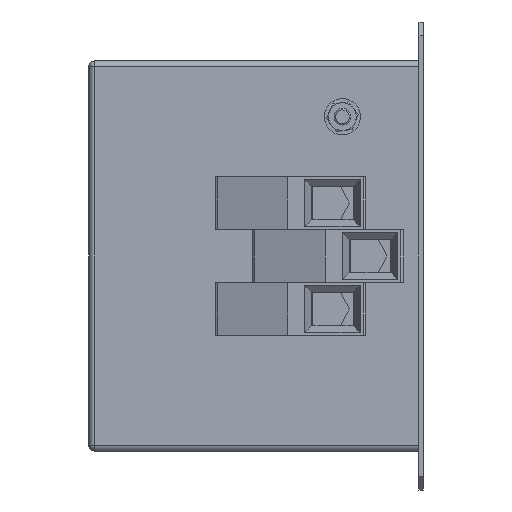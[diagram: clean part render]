
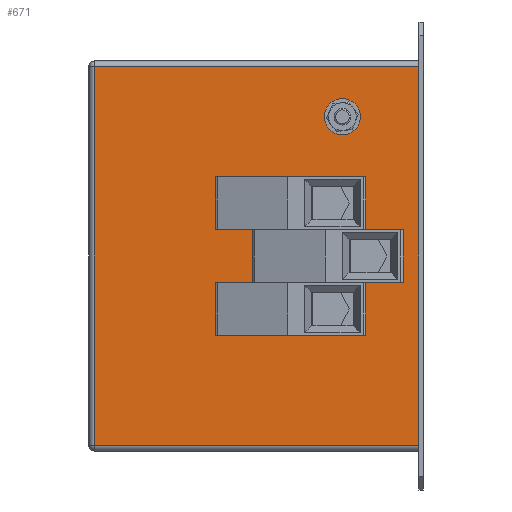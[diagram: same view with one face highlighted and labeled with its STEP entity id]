
A CAD part, left-side view. The second image highlights one B-rep face of the part: STEP entity #671.
In plain terms, the highlighted planar face has unit normal (-1, 0, 0).
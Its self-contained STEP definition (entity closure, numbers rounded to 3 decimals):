
#4 = ORIENTED_EDGE ( 'NONE', *, *, #3116, .T. ) ;
#15 = DIRECTION ( 'NONE',  ( 0., -1., 0. ) ) ;
#260 = VERTEX_POINT ( 'NONE', #532 ) ;
#272 = VECTOR ( 'NONE', #1991, 1000. ) ;
#299 = CARTESIAN_POINT ( 'NONE',  ( 0., 1.5, -154. ) ) ;
#313 = ORIENTED_EDGE ( 'NONE', *, *, #4718, .T. ) ;
#532 = CARTESIAN_POINT ( 'NONE',  ( 0., 56.08, -67.5 ) ) ;
#583 = FACE_BOUND ( 'NONE', #6140, .T. ) ;
#631 = DIRECTION ( 'NONE',  ( 1., 0., 0. ) ) ;
#671 = ADVANCED_FACE ( 'NONE', ( #2915, #5885, #1749, #583, #3985 ), #1655, .F. ) ;
#674 = CIRCLE ( 'NONE', #6333, 2.5 ) ;
#726 = DIRECTION ( 'NONE',  ( 0., 0., -1. ) ) ;
#811 = ORIENTED_EDGE ( 'NONE', *, *, #5842, .T. ) ;
#930 = ORIENTED_EDGE ( 'NONE', *, *, #4413, .T. ) ;
#1086 = DIRECTION ( 'NONE',  ( 0., 0., -1. ) ) ;
#1125 = AXIS2_PLACEMENT_3D ( 'NONE', #4385, #5725, #1086 ) ;
#1170 = DIRECTION ( 'NONE',  ( 1., 0., 0. ) ) ;
#1234 = CARTESIAN_POINT ( 'NONE',  ( 0., 29., -37. ) ) ;
#1264 = ORIENTED_EDGE ( 'NONE', *, *, #7670, .T. ) ;
#1356 = CARTESIAN_POINT ( 'NONE',  ( 0., 56.08, -103. ) ) ;
#1376 = AXIS2_PLACEMENT_3D ( 'NONE', #1640, #5821, #6509 ) ;
#1378 = DIRECTION ( 'NONE',  ( 0., 0., -1. ) ) ;
#1381 = EDGE_CURVE ( 'NONE', #260, #7115, #2383, .T. ) ;
#1398 = LINE ( 'NONE', #299, #8426 ) ;
#1640 = CARTESIAN_POINT ( 'NONE',  ( 0., 29., -34. ) ) ;
#1655 = PLANE ( 'NONE',  #6252 ) ;
#1668 = CARTESIAN_POINT ( 'NONE',  ( 0., 42.58, -81.5 ) ) ;
#1678 = EDGE_LOOP ( 'NONE', ( #5916, #7522, #4, #2868 ) ) ;
#1749 = FACE_BOUND ( 'NONE', #6672, .T. ) ;
#1963 = CARTESIAN_POINT ( 'NONE',  ( 0., 56.08, -105.5 ) ) ;
#1991 = DIRECTION ( 'NONE',  ( 0., 0., -1. ) ) ;
#2001 = CARTESIAN_POINT ( 'NONE',  ( 0., 118., -16. ) ) ;
#2248 = AXIS2_PLACEMENT_3D ( 'NONE', #3881, #1170, #7974 ) ;
#2300 = VERTEX_POINT ( 'NONE', #2001 ) ;
#2341 = DIRECTION ( 'NONE',  ( 0., 0., -1. ) ) ;
#2355 = CIRCLE ( 'NONE', #7562, 2.5 ) ;
#2383 = CIRCLE ( 'NONE', #1125, 2.5 ) ;
#2572 = EDGE_CURVE ( 'NONE', #8274, #2300, #4382, .T. ) ;
#2745 = VERTEX_POINT ( 'NONE', #3282 ) ;
#2819 = VERTEX_POINT ( 'NONE', #8782 ) ;
#2828 = EDGE_CURVE ( 'NONE', #7115, #260, #2355, .T. ) ;
#2868 = ORIENTED_EDGE ( 'NONE', *, *, #2572, .T. ) ;
#2915 = FACE_BOUND ( 'NONE', #7655, .T. ) ;
#2954 = ORIENTED_EDGE ( 'NONE', *, *, #7014, .T. ) ;
#2971 = DIRECTION ( 'NONE',  ( 0., 0., 1. ) ) ;
#3025 = LINE ( 'NONE', #6593, #272 ) ;
#3116 = EDGE_CURVE ( 'NONE', #2745, #8274, #1398, .T. ) ;
#3259 = ORIENTED_EDGE ( 'NONE', *, *, #1381, .T. ) ;
#3282 = CARTESIAN_POINT ( 'NONE',  ( 0., 1.5, -152. ) ) ;
#3484 = EDGE_LOOP ( 'NONE', ( #3259, #5844 ) ) ;
#3624 = DIRECTION ( 'NONE',  ( 1., 0., 0. ) ) ;
#3672 = CARTESIAN_POINT ( 'NONE',  ( 0., 56.08, -103. ) ) ;
#3881 = CARTESIAN_POINT ( 'NONE',  ( 0., 29., -34. ) ) ;
#3985 = FACE_OUTER_BOUND ( 'NONE', #1678, .T. ) ;
#4123 = DIRECTION ( 'NONE',  ( 0., 0., -1. ) ) ;
#4258 = VERTEX_POINT ( 'NONE', #1234 ) ;
#4305 = CIRCLE ( 'NONE', #2248, 3. ) ;
#4382 = LINE ( 'NONE', #5506, #5224 ) ;
#4385 = CARTESIAN_POINT ( 'NONE',  ( 0., 56.08, -65. ) ) ;
#4411 = CIRCLE ( 'NONE', #6806, 2.5 ) ;
#4413 = EDGE_CURVE ( 'NONE', #5609, #4660, #8143, .T. ) ;
#4660 = VERTEX_POINT ( 'NONE', #1668 ) ;
#4666 = CARTESIAN_POINT ( 'NONE',  ( 0., 120., -152. ) ) ;
#4673 = CARTESIAN_POINT ( 'NONE',  ( 0., 56.08, -100.5 ) ) ;
#4718 = EDGE_CURVE ( 'NONE', #2819, #4258, #5021, .T. ) ;
#4776 = CARTESIAN_POINT ( 'NONE',  ( 0., 42.58, -86.5 ) ) ;
#4890 = EDGE_CURVE ( 'NONE', #2300, #7401, #3025, .T. ) ;
#4985 = EDGE_CURVE ( 'NONE', #7401, #2745, #7924, .T. ) ;
#5021 = CIRCLE ( 'NONE', #1376, 3. ) ;
#5224 = VECTOR ( 'NONE', #6822, 1000. ) ;
#5336 = CARTESIAN_POINT ( 'NONE',  ( 0., 56.08, -65. ) ) ;
#5436 = DIRECTION ( 'NONE',  ( 1., 0., 0. ) ) ;
#5490 = DIRECTION ( 'NONE',  ( 1., 0., 0. ) ) ;
#5506 = CARTESIAN_POINT ( 'NONE',  ( 0., 120., -16. ) ) ;
#5609 = VERTEX_POINT ( 'NONE', #4776 ) ;
#5691 = CARTESIAN_POINT ( 'NONE',  ( 0., 120., -154. ) ) ;
#5725 = DIRECTION ( 'NONE',  ( 1., 0., 0. ) ) ;
#5821 = DIRECTION ( 'NONE',  ( 1., 0., 0. ) ) ;
#5842 = EDGE_CURVE ( 'NONE', #6178, #7528, #674, .T. ) ;
#5844 = ORIENTED_EDGE ( 'NONE', *, *, #2828, .T. ) ;
#5885 = FACE_BOUND ( 'NONE', #3484, .T. ) ;
#5916 = ORIENTED_EDGE ( 'NONE', *, *, #4890, .T. ) ;
#6099 = CARTESIAN_POINT ( 'NONE',  ( 0., 42.58, -84. ) ) ;
#6140 = EDGE_LOOP ( 'NONE', ( #811, #2954 ) ) ;
#6151 = AXIS2_PLACEMENT_3D ( 'NONE', #6099, #5490, #1378 ) ;
#6178 = VERTEX_POINT ( 'NONE', #1963 ) ;
#6237 = CARTESIAN_POINT ( 'NONE',  ( 0., 1.5, -16. ) ) ;
#6248 = DIRECTION ( 'NONE',  ( 1., 0., 0. ) ) ;
#6252 = AXIS2_PLACEMENT_3D ( 'NONE', #5691, #3624, #8380 ) ;
#6284 = CARTESIAN_POINT ( 'NONE',  ( 0., 56.08, -62.5 ) ) ;
#6333 = AXIS2_PLACEMENT_3D ( 'NONE', #3672, #6428, #2341 ) ;
#6428 = DIRECTION ( 'NONE',  ( 1., 0., 0. ) ) ;
#6509 = DIRECTION ( 'NONE',  ( 0., 0., -1. ) ) ;
#6580 = ORIENTED_EDGE ( 'NONE', *, *, #7354, .T. ) ;
#6593 = CARTESIAN_POINT ( 'NONE',  ( 0., 118., -154. ) ) ;
#6672 = EDGE_LOOP ( 'NONE', ( #930, #1264 ) ) ;
#6757 = CIRCLE ( 'NONE', #8400, 2.5 ) ;
#6806 = AXIS2_PLACEMENT_3D ( 'NONE', #7526, #6248, #726 ) ;
#6822 = DIRECTION ( 'NONE',  ( 0., 1., 0. ) ) ;
#7014 = EDGE_CURVE ( 'NONE', #7528, #6178, #6757, .T. ) ;
#7115 = VERTEX_POINT ( 'NONE', #6284 ) ;
#7354 = EDGE_CURVE ( 'NONE', #4258, #2819, #4305, .T. ) ;
#7401 = VERTEX_POINT ( 'NONE', #7919 ) ;
#7435 = DIRECTION ( 'NONE',  ( 0., 0., -1. ) ) ;
#7522 = ORIENTED_EDGE ( 'NONE', *, *, #4985, .T. ) ;
#7526 = CARTESIAN_POINT ( 'NONE',  ( 0., 42.58, -84. ) ) ;
#7528 = VERTEX_POINT ( 'NONE', #4673 ) ;
#7562 = AXIS2_PLACEMENT_3D ( 'NONE', #5336, #631, #7435 ) ;
#7655 = EDGE_LOOP ( 'NONE', ( #6580, #313 ) ) ;
#7670 = EDGE_CURVE ( 'NONE', #4660, #5609, #4411, .T. ) ;
#7919 = CARTESIAN_POINT ( 'NONE',  ( 0., 118., -152. ) ) ;
#7924 = LINE ( 'NONE', #4666, #8026 ) ;
#7974 = DIRECTION ( 'NONE',  ( 0., 0., -1. ) ) ;
#8026 = VECTOR ( 'NONE', #15, 1000. ) ;
#8143 = CIRCLE ( 'NONE', #6151, 2.5 ) ;
#8274 = VERTEX_POINT ( 'NONE', #6237 ) ;
#8380 = DIRECTION ( 'NONE',  ( 0., 0., -1. ) ) ;
#8400 = AXIS2_PLACEMENT_3D ( 'NONE', #1356, #5436, #4123 ) ;
#8426 = VECTOR ( 'NONE', #2971, 1000. ) ;
#8782 = CARTESIAN_POINT ( 'NONE',  ( 0., 29., -31. ) ) ;
